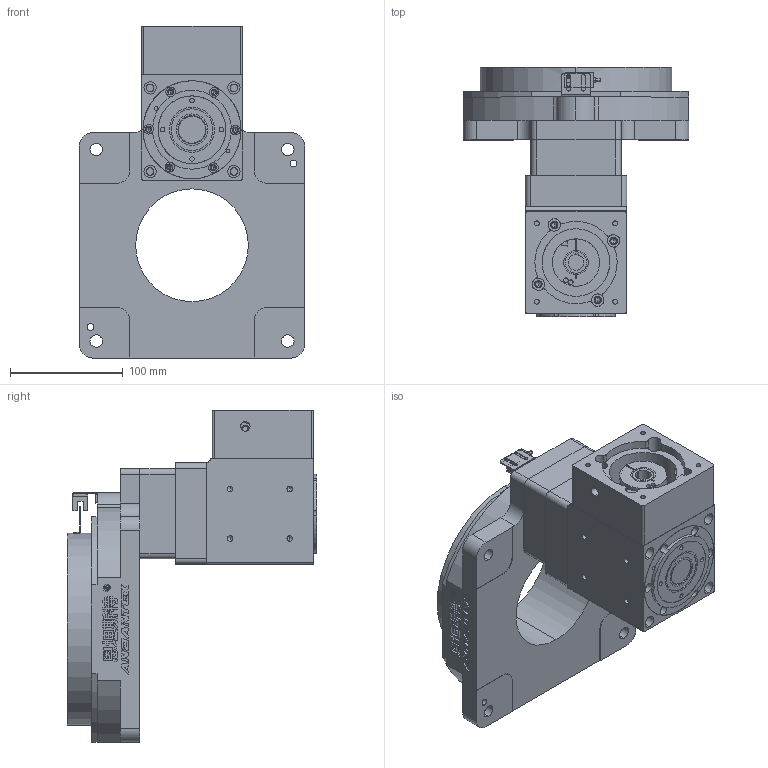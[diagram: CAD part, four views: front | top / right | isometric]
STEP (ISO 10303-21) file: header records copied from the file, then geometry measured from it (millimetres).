
FILE_DESCRIPTION(('Open CASCADE Model'),'2;1');
FILE_NAME('Open CASCADE Shape Model','2026-10-11T02:44:51',('Author'),( 'Open CASCADE'),'Open CASCADE STEP processor 7.8','Open CASCADE 7.8' ,'Unknown');
FILE_SCHEMA(('AUTOMOTIVE_DESIGN { 1 0 10303 214 1 1 1 1 }'));
Length unit declared in the file: millimetre
Products named in the file (4): NTF200-R-10-PVFD90-B3(配86步进 输入14-73-98.4-M5); NTF200-R-10-PVFD90-B3(配86步进 输入14-73-98.4-M5)-01; NTF200-R-10-PVFD90-B3(配86步进 输入14-73-98.4-M5)-02; NTF200-R-10-PVFD90-B3(配86步进 输入14-73-98.4-M5)-03
Assembly tree (3 placements, depth 2):
  NTF200-R-10-PVFD90-B3(配86步进 输入14-73-98.4-M5)
    NTF200-R-10-PVFD90-B3(配86步进 输入14-73-98.4-M5)-01
    NTF200-R-10-PVFD90-B3(配86步进 输入14-73-98.4-M5)-02
    NTF200-R-10-PVFD90-B3(配86步进 输入14-73-98.4-M5)-03
Bounding box: 200 x 221.5 x 294.5 mm (x, y, z)
Volume: 2816844.2 mm3; surface area: 446262.2 mm2
Topology: 21 solids, 21 shells, 1991 faces, 5860 edges, 3797 vertices
Faces by surface type: plane 922, cylinder 541, bspline 340, cone 188
Entity records: 227966 total; most frequent: CARTESIAN_POINT 124547, DIRECTION 16062, ORIENTED_EDGE 11532, PCURVE 11532, DEFINITIONAL_REPRESENTATION 11532, LINE 9017, VECTOR 9017, EDGE_CURVE 5766
